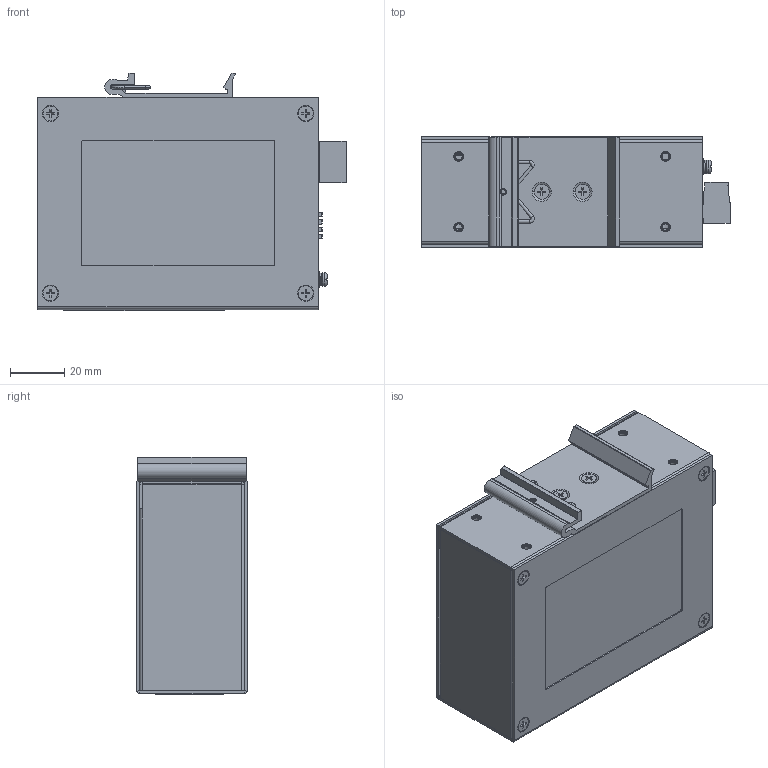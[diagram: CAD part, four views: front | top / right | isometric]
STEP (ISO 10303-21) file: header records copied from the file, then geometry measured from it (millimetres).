
FILE_DESCRIPTION((''),'2;1');
FILE_NAME('0000-8T-190528_ASM_ASM','2022-08-25T17:39:44',('698'),(''),'CREO PARAMETRIC BY PTC INC, 2019010','CREO PARAMETRIC BY PTC INC, 2019010','');
FILE_SCHEMA(('CONFIG_CONTROL_DESIGN'));
Length unit declared in the file: millimetre
Products named in the file (38): 8T-XIAKE_19_1; 8T-XIAKE_19_2; 8T-XIAKE_19_3; 8T-XIAKE_19_4; 8T-XIAKE_19_5; 8T-XIAKE_19_6; 8T-XIAKE_19_7; 8T-XIAKE_19_8; 8T-XIAKE_19_9; 8T-XIAKE_19_10; 8T-XIAKE_19_11; 8T-XIAKE_19_12; 8T-XIAKE_19_13; 8T-XIAKE_19_14; 8T-XIAKE_19_15; 8T-XIAKE_19_16; 8T-XIAKE_19_17; 8T-XIAKE_19_18; 8T-XIAKE_19_19; 8T-XIAKE_19_ASM; 8T-SHANGKE_10; GUAER-XIAOKE_2; GB819-M3X5-PINGTOU_1; TANGHUANG-XIA0_1; GUAER-XIAO-5T_ASM_3_ASM; IES2008-8T-P48-PCB_1; LED-CE_1; LZ1R-508-3P-15A_1; BOMAKAIGUAN_1; RJ2-4-90-WUDENG_1; LC1-508-3P-15A_2; IES2008-8T-P48-PCBA_ASM_3_ASM; M3_LUODING_1; M3_PINGDIAN_1; M3_TANDIAN_1; M3_LUODING_ASM_1_ASM; 0000-8T-190528_ASM_24_ASM; 0000-8T-190528_ASM_ASM
Assembly tree (57 placements, depth 4):
  0000-8T-190528_ASM_ASM
    0000-8T-190528_ASM_24_ASM
      8T-XIAKE_19_ASM
        8T-XIAKE_19_1
        8T-XIAKE_19_2
        8T-XIAKE_19_3
        8T-XIAKE_19_4
        8T-XIAKE_19_5
        8T-XIAKE_19_6
        8T-XIAKE_19_7
        8T-XIAKE_19_8
        8T-XIAKE_19_9
        8T-XIAKE_19_10
        8T-XIAKE_19_11
        8T-XIAKE_19_12
        8T-XIAKE_19_13
        8T-XIAKE_19_14
        8T-XIAKE_19_15
        8T-XIAKE_19_16
        8T-XIAKE_19_17
        8T-XIAKE_19_18
        8T-XIAKE_19_19
      8T-SHANGKE_10
      GUAER-XIAO-5T_ASM_3_ASM
        GUAER-XIAOKE_2
        GB819-M3X5-PINGTOU_1  x2
        TANGHUANG-XIA0_1
      IES2008-8T-P48-PCBA_ASM_3_ASM
        IES2008-8T-P48-PCB_1
        LED-CE_1  x9
        LZ1R-508-3P-15A_1
        BOMAKAIGUAN_1
        RJ2-4-90-WUDENG_1
        LC1-508-3P-15A_2
      M3_LUODING_ASM_1_ASM  x4
        M3_LUODING_1
        M3_PINGDIAN_1
        M3_TANDIAN_1
      GB819-M3X5-PINGTOU_1  x8
Bounding box: 113.2 x 40.6 x 87.35 mm (x, y, z)
Volume: 90620.3 mm3; surface area: 120810.8 mm2
Topology: 58 solids, 87 shells, 2121 faces, 5373 edges, 3476 vertices
Faces by surface type: plane 1194, cylinder 714, cone 107, torus 55, bspline 51
Entity records: 53376 total; most frequent: CARTESIAN_POINT 13224, DIRECTION 8499, ORIENTED_EDGE 7870, EDGE_CURVE 4050, AXIS2_PLACEMENT_3D 2903, VECTOR 2693, LINE 2693, VERTEX_POINT 2636
